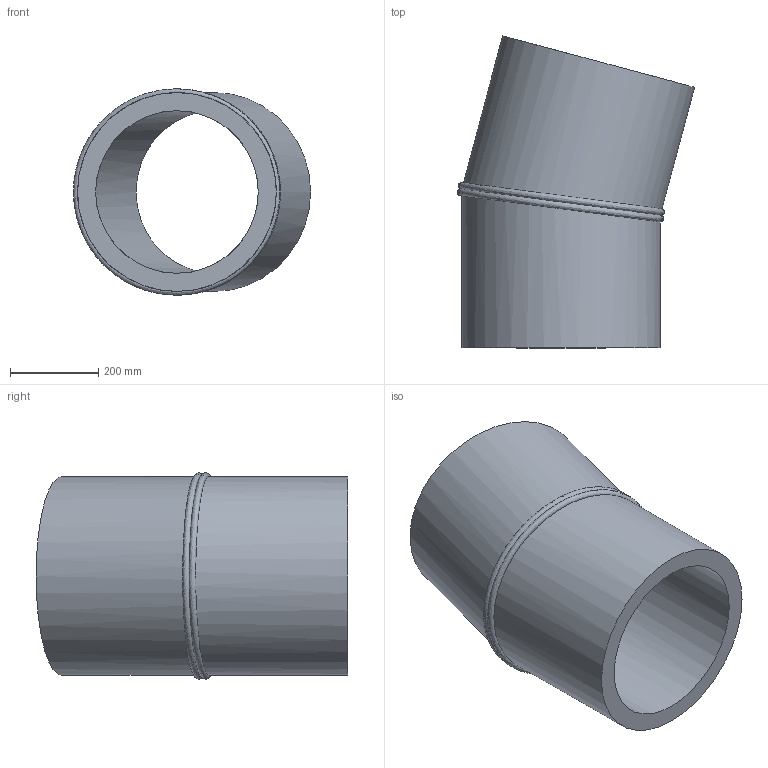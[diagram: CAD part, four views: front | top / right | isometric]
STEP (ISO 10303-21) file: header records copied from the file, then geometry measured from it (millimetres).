
FILE_DESCRIPTION(/* description */ ('Unknown'),/* implementation_level */ '2;1');
FILE_NAME(/* name */ 'Curva 15° a settore DE450 SDR11',/* time_stamp */ '2022-07-22T16:07:52+02:00',/* author */ ('Unknown'),/* organization */ ('Unknown'),/* preprocessor_version */ 'ST-DEVELOPER v18.102',/* originating_system */ 'Solid Edge',/* authorisation */ 'Unknown');
FILE_SCHEMA (('AUTOMOTIVE_DESIGN {1 0 10303 214 3 1 1}'));
Length unit declared in the file: millimetre
Products named in the file (2): Curva 15° a settore DE450 SDR11; Tubo x Gomito 15° DE450 SDR11
Assembly tree (2 placements, depth 2):
  Curva 15° a settore DE450 SDR11
    Tubo x Gomito 15° DE450 SDR11  x2
Bounding box: 537.06 x 706.25 x 466.86 mm (x, y, z)
Volume: 34949910.3 mm3; surface area: 1937852.6 mm2
Topology: 2 solids, 2 shells, 10 faces, 20 edges, 14 vertices
Faces by surface type: cylinder 4, plane 4, bspline 2
Full cylindrical faces by diameter (mm): 368.2 x2, 450 x2
Entity records: 767 total; most frequent: CARTESIAN_POINT 630, DIRECTION 20, ORIENTED_EDGE 10, EDGE_LOOP 10, FACE_BOUND 10, AXIS2_PLACEMENT_3D 10, EDGE_CURVE 5, VERTEX_POINT 5
